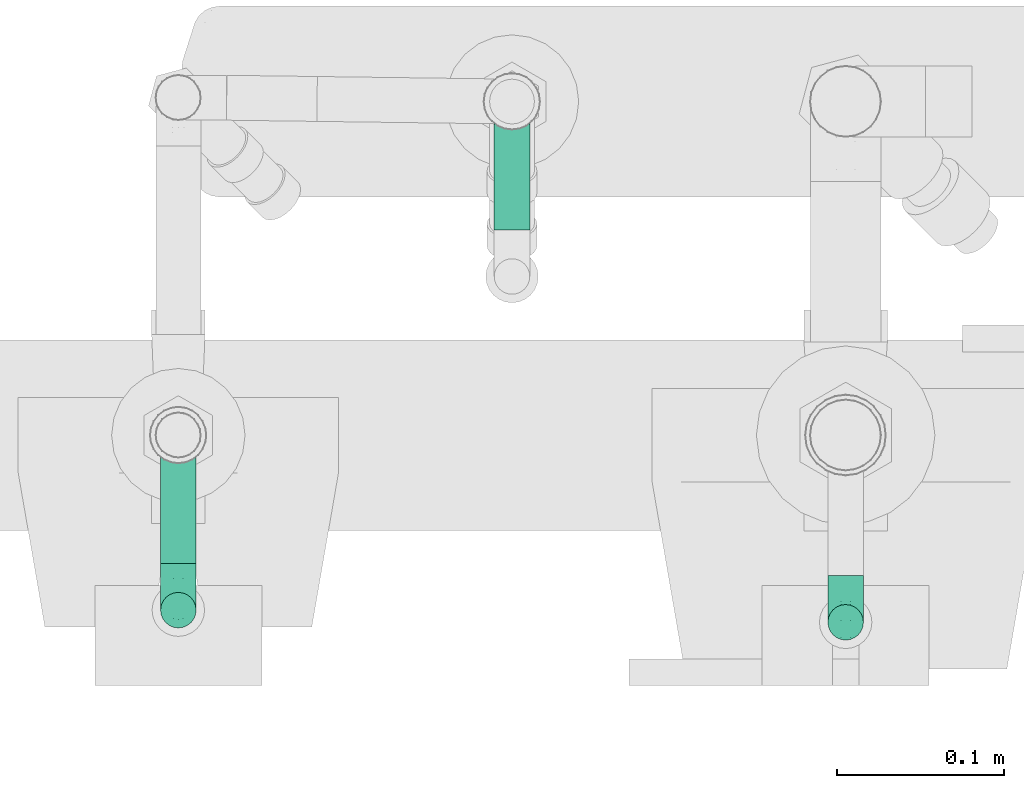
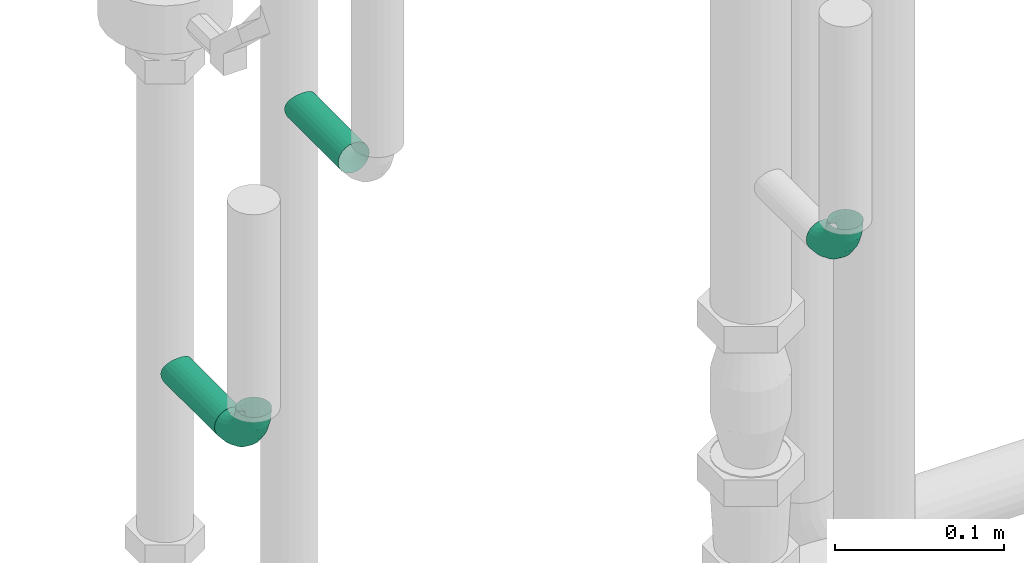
# One storey, part 190 of 374: 4 flow segments.
"""IFC2X3 building model written with IfcOpenShell, lengths in metres."""

import ifcopenshell
import ifcopenshell.guid

model = None  # the IFC model being written
_history = None  # IfcOwnerHistory: only IFC2X3 demands one
_inside = {}  # id of a spatial element -> (the spatial element, [elements in it])
_under = {}  # id of a project, library or spatial element -> (it, [spatial elements below it])
_declared = {}  # id of a project -> (the project, [libraries it declares])
_typed = {}  # id of a type object -> (the type object, [elements of that type])
_made_of = {}  # id of a material, layer set ... -> (it, [elements and type objects made of it])


def new_model(schema):
    """Start an empty IFC model of exactly this schema.

    Asked for "IFC4X3", IfcOpenShell would pick the latest addendum, in which some entities
    have other attributes; the version numbers below select the first issue.
    IFC2X3 requires an IfcOwnerHistory on every rooted entity: one is made here for all.
    """
    global model, _history
    if schema == "IFC4X3":
        model = ifcopenshell.file(schema_version=(4, 3, 0, 0))
    else:
        model = ifcopenshell.file(schema=schema)
    _inside.clear()
    _under.clear()
    _declared.clear()
    _typed.clear()
    _made_of.clear()
    _history = None
    if model.schema == "IFC2X3":
        org = make("IfcOrganization", Name="unknown")
        user = make(
            "IfcPersonAndOrganization",
            ThePerson=make("IfcPerson", FamilyName="unknown"),
            TheOrganization=org,
        )
        app = make(
            "IfcApplication",
            ApplicationDeveloper=org,
            Version="unknown",
            ApplicationFullName="unknown",
            ApplicationIdentifier="unknown",
        )
        _history = make(
            "IfcOwnerHistory",
            OwningUser=user,
            OwningApplication=app,
            ChangeAction="ADDED",
            CreationDate=0,
        )
    return model


def make(cls, **values):
    """One entity of the class cls with the attributes given. An attribute that is None is left unset."""
    return model.create_entity(
        cls, **{name: value for name, value in values.items() if value is not None}
    )


def rooted(cls, **values):
    """An entity with a GlobalId (a new one), such as an element, a storey or a relation."""
    return make(cls, GlobalId=ifcopenshell.guid.new(), OwnerHistory=_history, **values)


def si_unit(unit_type, name, prefix=None):
    """IfcSIUnit, for example si_unit("LENGTHUNIT", "METRE", prefix="MILLI")."""
    return make("IfcSIUnit", UnitType=unit_type, Prefix=prefix, Name=name)


def assignment(units):
    """IfcUnitAssignment: the units of a project."""
    return None if units is None else make("IfcUnitAssignment", Units=units)


def point(xyz):
    """IfcCartesianPoint."""
    return None if xyz is None else make("IfcCartesianPoint", Coordinates=xyz)


def direction(xyz):
    """IfcDirection."""
    return None if xyz is None else make("IfcDirection", DirectionRatios=xyz)


def frame(location, z_axis=None, x_axis=None):
    """IfcAxis2Placement3D, a coordinate frame: its origin and axes. An axis left out is left unset."""
    return make(
        "IfcAxis2Placement3D",
        Location=point(location),
        Axis=direction(z_axis),
        RefDirection=direction(x_axis),
    )


def origin():
    """The frame at (0, 0, 0) with its axes left unset."""
    return frame((0.0, 0.0, 0.0))


def place(relative_to, where):
    """IfcLocalPlacement: puts the frame where relative to a parent placement (None: the world)."""
    return make(
        "IfcLocalPlacement", PlacementRelTo=relative_to, RelativePlacement=where
    )


def context(
    kind, dimensions, precision=None, world=None, true_north=None, identifier=None
):
    """IfcGeometricRepresentationContext, for example the 3D "Model" context."""
    return make(
        "IfcGeometricRepresentationContext",
        ContextIdentifier=identifier,
        ContextType=kind,
        CoordinateSpaceDimension=dimensions,
        Precision=precision,
        WorldCoordinateSystem=world,
        TrueNorth=true_north,
    )


def subcontext(parent, identifier, kind, view, scale=None):
    """IfcGeometricRepresentationSubContext, for example "Body" below "Model"."""
    return make(
        "IfcGeometricRepresentationSubContext",
        ContextIdentifier=identifier,
        ContextType=kind,
        ParentContext=parent,
        TargetScale=scale,
        TargetView=view,
    )


def project(units=None, contexts=None):
    """IfcProject with its units and contexts."""
    return rooted(
        "IfcProject",
        Name="project",
        RepresentationContexts=contexts,
        UnitsInContext=assignment(units),
    )


def spatial(cls, under=None, at=None, **own):
    """A site, building, storey or space (cls), placed at a placement, below another one or the project."""
    s = rooted(cls, ObjectPlacement=at, **own)
    if under is not None:
        _under.setdefault(under.id(), (under, []))[1].append(s)
    return s


def faces_of(points, faces, orient=None, outer=None):
    """IfcFace entities. A face is a list of loops; a loop is a list of indices into points, from 0.

    orient and outer hold one flag for each loop. By default every Orientation is true, the
    first loop of a face is its IfcFaceOuterBound and the others are IfcFaceBound.
    """
    made = []
    for i, loops in enumerate(faces):
        bounds = []
        for j, loop in enumerate(loops):
            is_outer = j == 0 if outer is None else outer[i][j]
            bounds.append(
                make(
                    "IfcFaceOuterBound" if is_outer else "IfcFaceBound",
                    Bound=make("IfcPolyLoop", Polygon=[points[k] for k in loop]),
                    Orientation=True if orient is None else orient[i][j],
                )
            )
        made.append(make("IfcFace", Bounds=bounds))
    return made


def open_shell(faces, orient=None, outer=None):
    """The faces of one IfcOpenShell. surface_model builds it on its shared points."""
    return ("IfcOpenShell", faces, orient, outer)


def surface_model(cls, points, shells):
    """IfcFaceBasedSurfaceModel or IfcShellBasedSurfaceModel (cls): surfaces that need not close."""
    shared = [point(p) for p in points]
    made = [make(c, CfsFaces=faces_of(shared, fs, o, b)) for c, fs, o, b in shells]
    if cls == "IfcFaceBasedSurfaceModel":
        return make(cls, FbsmFaces=made)
    return make(cls, SbsmBoundary=made)


def shape(context_of_items, identifier, shape_type, items):
    """IfcShapeRepresentation: the items that make up one representation, for example the "Body"."""
    return make(
        "IfcShapeRepresentation",
        ContextOfItems=context_of_items,
        RepresentationIdentifier=identifier,
        RepresentationType=shape_type,
        Items=items,
    )


def source(mapping_origin, context_of_items, identifier, shape_type, items):
    """IfcRepresentationMap: a shape defined once, which mapped items show again and again."""
    return make(
        "IfcRepresentationMap",
        MappingOrigin=mapping_origin,
        MappedRepresentation=shape(context_of_items, identifier, shape_type, items),
    )


def transform(
    local_origin,
    x_axis=None,
    y_axis=None,
    z_axis=None,
    scale=None,
    scale2=None,
    scale3=None,
    uniform=True,
):
    """IfcCartesianTransformationOperator3D, or its non-uniform kind. x_axis, y_axis, z_axis: its Axis1, 2, 3."""
    if uniform:
        return make(
            "IfcCartesianTransformationOperator3D",
            Axis1=direction(x_axis),
            Axis2=direction(y_axis),
            LocalOrigin=point(local_origin),
            Scale=scale,
            Axis3=direction(z_axis),
        )
    return make(
        "IfcCartesianTransformationOperator3DnonUniform",
        Axis1=direction(x_axis),
        Axis2=direction(y_axis),
        LocalOrigin=point(local_origin),
        Scale=scale,
        Axis3=direction(z_axis),
        Scale2=scale2,
        Scale3=scale3,
    )


def mapped(mapping_source, mapping_target):
    """IfcMappedItem: shows the shape of a source again, moved by a transform."""
    return make(
        "IfcMappedItem", MappingSource=mapping_source, MappingTarget=mapping_target
    )


def made_of(thing, what):
    """Note that an element or type object is made of a material, layer set ...; save() writes the relation."""
    if what is not None:
        _made_of.setdefault(what.id(), (what, []))[1].append(thing)
    return thing


def element(
    cls,
    number,
    at=None,
    inside=None,
    cuts=None,
    type_object=None,
    material=None,
    context=None,
    identifier="Body",
    shape_type=None,
    held_by="IfcProductDefinitionShape",
    body=None,
    shapes=None,
    **own,
):
    """One element of the class cls, such as IfcWall. Its Tag is "e" and its number.

    at: its placement. inside: the storey or other place that contains it. cuts: it is an
    opening in that element (IfcRelVoidsElement). A single representation is given by context,
    identifier, shape_type and body (its items); several are given by shapes. held_by: the class
    of the entity that holds the representations. save() writes the other relations.
    """
    e = rooted(cls, Tag="e%d" % number, ObjectPlacement=at, **own)
    if body is not None:
        shapes = [shape(context, identifier, shape_type, body)]
    if shapes is not None:
        e.Representation = make(held_by, Representations=shapes)
    if inside is not None:
        _inside.setdefault(inside.id(), (inside, []))[1].append(e)
    if cuts is not None:
        rooted(
            "IfcRelVoidsElement", RelatingBuildingElement=cuts, RelatedOpeningElement=e
        )
    if type_object is not None:
        _typed.setdefault(type_object.id(), (type_object, []))[1].append(e)
    return made_of(e, material)


def aggregate(whole, parts):
    """IfcRelAggregates: a whole, such as a stair, and the parts it consists of."""
    return rooted("IfcRelAggregates", RelatingObject=whole, RelatedObjects=parts)


def save(model, path):
    """Write the relations noted so far, then the file.

    IfcRelAggregates (storeys below a building ...), IfcRelContainedInSpatialStructure (elements
    in a storey), IfcRelDefinesByType, IfcRelAssociatesMaterial and IfcRelDeclares: one each for
    every whole, place, type object, material and project.
    """
    for whole, parts in _under.values():
        aggregate(whole, parts)
    for where, things in _inside.values():
        rooted(
            "IfcRelContainedInSpatialStructure",
            RelatedElements=things,
            RelatingStructure=where,
        )
    for kind, things in _typed.values():
        rooted("IfcRelDefinesByType", RelatedObjects=things, RelatingType=kind)
    for what, things in _made_of.values():
        rooted("IfcRelAssociatesMaterial", RelatedObjects=things, RelatingMaterial=what)
    for by, libraries in _declared.values():
        rooted("IfcRelDeclares", RelatingContext=by, RelatedDefinitions=libraries)
    model.write(path)


model = new_model("IFC2X3")

# Units and contexts
model_context = context("Model", 3, precision=1e-05, world=origin(), true_north=direction((-0.4480736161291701, 0.8939966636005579)))
body_context = subcontext(model_context, "Body", "Model", "MODEL_VIEW")
ifc_project = project(units=[si_unit("LENGTHUNIT", "METRE"), si_unit("AREAUNIT", "SQUARE_METRE"), si_unit("VOLUMEUNIT", "CUBIC_METRE"), si_unit("PLANEANGLEUNIT", "RADIAN"), si_unit("THERMODYNAMICTEMPERATUREUNIT", "KELVIN"), si_unit("MASSUNIT", "GRAM", prefix="KILO"), si_unit("TIMEUNIT", "SECOND")], contexts=[model_context])

# Site, building, storey
site_placement = place(None, origin())
site = spatial("IfcSite", under=ifc_project, at=site_placement, Name="Site 1", CompositionType="ELEMENT")
building_placement = place(site_placement, origin())
building = spatial("IfcBuilding", under=site, at=building_placement, Name="Undefined", CompositionType="ELEMENT")
storey_placement = place(building_placement, origin())
storey = spatial("IfcBuildingStorey", under=building, at=storey_placement, Name="Rez de chauss\x8ee", CompositionType="ELEMENT", Elevation=0.0)

# Flow segments
shared_shape_1 = source(origin(), body_context, "Body", "SurfaceModel", [
    surface_model("IfcFaceBasedSurfaceModel", [(1.776356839e-15, 0.0027802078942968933, 0.0), (0.0, 0.0, 0.0), (0.06022698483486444, -7.105427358e-15, 1.776356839e-15), (0.060000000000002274, 0.0027802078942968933, 0.0), (0.0, -0.002685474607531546, -0.0007195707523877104), (0.06086354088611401, -0.0026854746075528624, -0.0007195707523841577), (1.776356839e-15, -0.00509320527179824, -0.002109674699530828), (0.0617764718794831, -0.0050932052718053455, -0.0021096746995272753), (1.776356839e-15, -0.007059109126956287, -0.004075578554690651), (0.06274838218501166, -0.0070591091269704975, -0.004075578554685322), (0.0, -0.00844921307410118, -0.00648330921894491), (0.063504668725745, -0.00844921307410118, -0.006483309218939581), (0.0, -0.009168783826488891, -0.009168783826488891), (0.0637924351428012, -0.009168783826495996, -0.009168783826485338), (0.0, -0.009168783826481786, -0.011948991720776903), (0.063504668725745, -0.009168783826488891, -0.011948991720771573), (1.776356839e-15, -0.00844921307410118, -0.014634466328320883), (0.06274838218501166, -0.008449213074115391, -0.01463446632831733), (1.776356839e-15, -0.007059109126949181, -0.017042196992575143), (0.0617764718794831, -0.007059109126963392, -0.01704219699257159), (0.0, -0.005093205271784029, -0.019008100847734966), (0.06086354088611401, -0.005093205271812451, -0.019008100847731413), (0.0, -0.0026854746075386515, -0.020398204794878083), (0.06022698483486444, -0.0026854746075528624, -0.02039820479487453), (1.776356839e-15, 7.105427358e-15, -0.021117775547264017), (0.060000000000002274, 7.105427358e-15, -0.021117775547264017), (1.776356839e-15, 0.002780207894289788, -0.02111777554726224), (0.06022698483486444, 0.002780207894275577, -0.021117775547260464), (1.776356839e-15, 0.005465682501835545, -0.020398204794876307), (0.06086354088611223, 0.005465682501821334, -0.020398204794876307), (1.776356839e-15, 0.007873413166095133, -0.01900810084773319), (0.0617764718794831, 0.007873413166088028, -0.01900810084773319), (0.0, 0.00983931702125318, -0.017042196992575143), (0.06274838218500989, 0.009839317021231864, -0.017042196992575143), (1.776356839e-15, 0.011229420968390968, -0.01463446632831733), (0.06350466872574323, 0.011229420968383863, -0.014634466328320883), (1.776356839e-15, 0.011948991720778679, -0.011948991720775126), (0.06379243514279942, 0.011948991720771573, -0.011948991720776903), (1.776356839e-15, 0.011948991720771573, -0.009168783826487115), (0.06350466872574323, 0.011948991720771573, -0.009168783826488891), (0.0, 0.011229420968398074, -0.006483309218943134), (0.06274838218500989, 0.011229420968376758, -0.006483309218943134), (1.776356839e-15, 0.009839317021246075, -0.0040755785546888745), (0.0617764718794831, 0.009839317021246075, -0.0040755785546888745), (1.776356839e-15, 0.007873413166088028, -0.0021096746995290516), (0.06086354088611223, 0.007873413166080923, -0.002109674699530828), (1.776356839e-15, 0.005465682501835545, -0.000719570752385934), (0.06022698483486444, 0.005465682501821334, -0.0007195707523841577)], [open_shell([[[0, 1, 2, 3]], [[1, 4, 5, 2]], [[4, 6, 7, 5]], [[6, 8, 9, 7]], [[8, 10, 11, 9]], [[10, 12, 13, 11]], [[12, 14, 15, 13]], [[14, 16, 17, 15]], [[16, 18, 19, 17]], [[18, 20, 21, 19]], [[20, 22, 23, 21]], [[22, 24, 25, 23]], [[24, 26, 27, 25]], [[26, 28, 29, 27]], [[28, 30, 31, 29]], [[30, 32, 33, 31]], [[32, 34, 35, 33]], [[34, 36, 37, 35]], [[36, 38, 39, 37]], [[38, 40, 41, 39]], [[40, 42, 43, 41]], [[42, 44, 45, 43]], [[44, 46, 47, 45]], [[46, 0, 3, 47]]])]),
])
flow_segment_1_placement = place(storey_placement, origin())
element("IfcFlowSegment", 1, at=flow_segment_1_placement, inside=storey, Name="Piquage sur circulaire 90°", ObjectType="Piquage sur circulaire 90°", context=body_context, shape_type="MappedRepresentation", body=[
    mapped(shared_shape_1, transform((52.060318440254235, 10.641187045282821, 1.475506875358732), x_axis=(0.0, 1.0, 0.0), y_axis=(-0.9914448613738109, 0.0, 0.1305261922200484), z_axis=(0.1305261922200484, 0.0, 0.9914448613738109))),
])
flow_segment_2_placement = place(storey_placement, origin())
element("IfcFlowSegment", 2, at=flow_segment_2_placement, inside=storey, Name="Piquage sur circulaire 90°", ObjectType="Piquage sur circulaire 90°", context=body_context, shape_type="MappedRepresentation", body=[
    mapped(shared_shape_1, transform((52.260318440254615, 10.841187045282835, 1.475506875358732), x_axis=(0.0, 1.0, 0.0), y_axis=(-0.9914448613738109, 0.0, 0.1305261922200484), z_axis=(0.1305261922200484, 0.0, 0.9914448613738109))),
])
shared_shape_2 = source(origin(), body_context, "Body", "SurfaceModel", [
    surface_model("IfcFaceBasedSurfaceModel", [(0.010089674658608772, 0.0, 1.33226763e-15), (0.010042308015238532, 0.002779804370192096, 1.33226763e-15), (4.73666433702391e-05, 0.0027798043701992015, 4.4408921e-16), (0.0, 0.0, 0.0), (-0.009607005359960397, 0.00311462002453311, -0.0025651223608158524), (-0.00974587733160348, 0.0003379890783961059, -0.0025894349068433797), (-0.01826287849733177, 0.003761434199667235, -0.007520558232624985), (-0.018483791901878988, 0.000990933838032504, -0.007591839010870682), (-0.025330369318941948, 0.004676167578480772, -0.014528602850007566), (-0.025618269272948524, 0.001914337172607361, -0.014666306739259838), (-0.030327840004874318, 0.005796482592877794, -0.023111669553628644), (-0.030663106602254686, 0.003045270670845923, -0.023330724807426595), (-0.03291472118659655, 0.00704603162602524, -0.03268483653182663), (-0.03327450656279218, 0.004306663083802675, -0.0329946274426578), (0.009903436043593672, 0.005463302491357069, -0.000713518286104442), (0.000186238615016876, 0.005463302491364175, -0.0007135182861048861), (-0.009199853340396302, 0.005788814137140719, -0.0032073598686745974), (-0.017615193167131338, 0.006417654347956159, -0.008025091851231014), (-0.02448628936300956, 0.007306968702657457, -0.014838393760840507), (-0.029344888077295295, 0.008396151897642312, -0.023182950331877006), (-0.031859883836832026, 0.009610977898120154, -0.0324900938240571), (0.009682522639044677, 0.007867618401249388, -0.002091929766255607), (0.0004071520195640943, 0.007867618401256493, -0.002091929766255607), (-0.008552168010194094, 0.008178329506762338, -0.004472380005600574), (-0.0165848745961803, 0.008778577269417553, -0.00907105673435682), (-0.023143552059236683, 0.00962745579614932, -0.015574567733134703), (-0.027781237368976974, 0.010667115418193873, -0.023539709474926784), (-0.030181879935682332, 0.011826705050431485, -0.03242367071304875), (0.009394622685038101, 0.009828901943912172, -0.0040412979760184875), (0.000695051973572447, 0.009828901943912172, -0.0040412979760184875), (-0.007708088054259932, 0.010120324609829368, -0.006273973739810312), (-0.015242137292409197, 0.010683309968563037, -0.010587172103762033), (-0.02139366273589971, 0.011479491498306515, -0.01668695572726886), (-0.0257434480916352, 0.012454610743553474, -0.02415763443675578), (-0.027995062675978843, 0.013542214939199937, -0.03249009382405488), (0.00905935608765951, 0.011213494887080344, -0.006428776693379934), (0.0010303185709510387, 0.01121349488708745, -0.006428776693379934), (-0.006725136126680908, 0.011482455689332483, -0.00848936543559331), (-0.0136784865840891, 0.01200204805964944, -0.01247011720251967), (-0.01935587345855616, 0.012736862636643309, -0.018099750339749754), (-0.02337039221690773, 0.013636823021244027, -0.024994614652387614), (-0.02544846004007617, 0.014640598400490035, -0.03268483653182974), (0.008699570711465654, 0.01192703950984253, -0.009091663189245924), (0.001390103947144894, 0.01192703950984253, -0.009091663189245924), (-0.005670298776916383, 0.01217189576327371, -0.010967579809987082), (-0.01200048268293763, 0.012644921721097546, -0.014591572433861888), (-0.017169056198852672, 0.013313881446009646, -0.01971667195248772), (-0.02082378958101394, 0.014133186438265, -0.025993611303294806), (-0.02271561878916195, 0.01504700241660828, -0.032994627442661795), (0.008339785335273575, 0.011920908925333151, -0.011848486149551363), (0.0017498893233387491, 0.011920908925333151, -0.011848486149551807), (-0.0046154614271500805, 0.012141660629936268, -0.013539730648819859), (-0.01032247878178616, 0.012568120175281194, -0.016806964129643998), (-0.014982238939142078, 0.013171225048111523, -0.02142753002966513), (-0.018277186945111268, 0.01390987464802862, -0.027086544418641), (-0.01998277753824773, 0.01473373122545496, -0.033398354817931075), (0.008004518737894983, 0.011195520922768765, -0.01451137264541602), (0.0020851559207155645, 0.011195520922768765, -0.014511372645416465), (-0.003632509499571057, 0.011393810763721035, -0.016030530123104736), (-0.008758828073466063, 0.011776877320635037, -0.018965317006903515), (-0.01294444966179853, 0.012318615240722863, -0.023115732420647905), (-0.01590413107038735, 0.012982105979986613, -0.028198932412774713), (-0.017436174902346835, 0.013722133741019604, -0.03386850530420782), (0.007716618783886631, 0.009800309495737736, -0.016898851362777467), (0.002373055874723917, 0.009800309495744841, -0.016898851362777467), (-0.0027884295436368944, 0.009979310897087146, -0.018270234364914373), (-0.007416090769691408, 0.010325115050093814, -0.020919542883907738), (-0.01119456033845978, 0.010814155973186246, -0.024666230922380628), (-0.013866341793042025, 0.011413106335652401, -0.02925496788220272), (-0.015249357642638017, 0.012081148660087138, -0.03437303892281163), (0.007495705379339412, 0.007830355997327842, -0.018848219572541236), (0.002593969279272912, 0.007830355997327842, -0.018848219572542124), (-0.00214074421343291, 0.00799455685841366, -0.02010621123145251), (-0.006385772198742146, 0.008311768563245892, -0.022536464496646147), (-0.009851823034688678, 0.008760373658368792, -0.025973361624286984), (-0.012302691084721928, 0.00930980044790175, -0.03018268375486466), (-0.013571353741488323, 0.009922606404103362, -0.034877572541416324), (0.007356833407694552, 0.0054199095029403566, -0.020226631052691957), (0.002732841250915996, 0.005419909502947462, -0.0202266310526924), (-0.0017335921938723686, 0.005574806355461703, -0.021413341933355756), (-0.005738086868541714, 0.005874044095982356, -0.023705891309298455), (-0.009007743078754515, 0.006297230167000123, -0.026948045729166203), (-0.011319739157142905, 0.006815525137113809, -0.030918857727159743), (-0.012516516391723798, 0.007393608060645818, -0.03534772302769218), (0.007309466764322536, 0.0027332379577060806, -0.020940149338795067), (0.0027802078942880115, 0.002733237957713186, -0.020940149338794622), (-0.001594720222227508, 0.0028849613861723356, -0.022102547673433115), (-0.0055171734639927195, 0.0031780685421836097, -0.024348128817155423), (-0.008719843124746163, 0.003592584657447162, -0.027523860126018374), (-0.010984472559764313, 0.004100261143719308, -0.03141332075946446), (-0.012156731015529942, 0.004666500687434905, -0.035751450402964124), (0.007356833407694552, -4.656641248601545e-05, -0.020940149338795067), (0.002732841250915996, -4.6566412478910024e-05, -0.02094014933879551), (-0.0017335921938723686, 0.00010833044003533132, -0.022126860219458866), (-0.005738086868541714, 0.00040756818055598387, -0.024419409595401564), (-0.009007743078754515, 0.0008307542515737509, -0.027661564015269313), (-0.011319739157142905, 0.0013490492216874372, -0.03163237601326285), (-0.012516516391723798, 0.0019271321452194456, -0.03606124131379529), (0.007495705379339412, -0.002730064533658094, -0.020226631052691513), (0.002593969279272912, -0.002730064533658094, -0.0202266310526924), (-0.00214074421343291, -0.002565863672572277, -0.021484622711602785), (-0.006385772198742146, -0.002248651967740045, -0.023914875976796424), (-0.009851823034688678, -0.0018000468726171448, -0.02735177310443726), (-0.012302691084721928, -0.0012506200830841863, -0.031561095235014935), (-0.013571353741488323, -0.0006378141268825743, -0.0362559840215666), (0.007716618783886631, -0.005134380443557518, -0.01884821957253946), (0.002373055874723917, -0.0051343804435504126, -0.01884821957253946), (-0.0027884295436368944, -0.004955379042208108, -0.020219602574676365), (-0.007416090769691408, -0.00460957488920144, -0.02286891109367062), (-0.01119456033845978, -0.004120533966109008, -0.026615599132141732), (-0.013866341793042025, -0.0035215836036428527, -0.031204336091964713), (-0.015249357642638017, -0.002853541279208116, -0.03632240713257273), (0.008004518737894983, -0.007095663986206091, -0.01689885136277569), (0.0020851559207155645, -0.007095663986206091, -0.016898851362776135), (-0.003632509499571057, -0.006897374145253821, -0.018418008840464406), (-0.008758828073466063, -0.006514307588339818, -0.021352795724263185), (-0.01294444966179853, -0.005972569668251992, -0.025503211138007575), (-0.01590413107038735, -0.005309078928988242, -0.030586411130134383), (-0.017436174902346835, -0.0045690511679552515, -0.03625598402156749), (0.008339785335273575, -0.008480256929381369, -0.014511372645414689), (0.0017498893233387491, -0.008480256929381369, -0.014511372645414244), (-0.0046154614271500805, -0.008259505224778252, -0.016202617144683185), (-0.01032247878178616, -0.007833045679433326, -0.019469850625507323), (-0.014982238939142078, -0.007229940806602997, -0.024090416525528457), (-0.018277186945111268, -0.006491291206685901, -0.029749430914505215), (-0.01998277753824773, -0.00566743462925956, -0.0360612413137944), (0.008699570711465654, -0.009193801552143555, -0.011848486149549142), (0.001390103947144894, -0.009193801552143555, -0.011848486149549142), (-0.005670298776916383, -0.008948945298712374, -0.013724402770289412), (-0.01200048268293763, -0.008475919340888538, -0.017348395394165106), (-0.017169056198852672, -0.007806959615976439, -0.022473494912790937), (-0.02082378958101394, -0.006987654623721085, -0.028750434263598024), (-0.02271561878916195, -0.006073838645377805, -0.035751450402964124), (0.00905935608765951, -0.009187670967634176, -0.00909166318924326), (0.0010303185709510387, -0.00918767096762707, -0.00909166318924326), (-0.006725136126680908, -0.008918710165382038, -0.011152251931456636), (-0.0136784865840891, -0.00839911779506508, -0.015133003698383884), (-0.01935587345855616, -0.007664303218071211, -0.02076263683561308), (-0.02337039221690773, -0.006764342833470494, -0.02765750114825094), (-0.02544846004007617, -0.005760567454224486, -0.03534772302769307), (0.009394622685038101, -0.008462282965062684, -0.006428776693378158), (0.000695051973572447, -0.008462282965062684, -0.006428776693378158), (-0.007708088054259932, -0.008170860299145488, -0.008661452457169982), (-0.015242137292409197, -0.0076078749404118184, -0.012974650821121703), (-0.02139366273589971, -0.00681169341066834, -0.01907443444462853), (-0.0257434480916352, -0.005836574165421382, -0.02654511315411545), (-0.027995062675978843, -0.004748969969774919, -0.03487757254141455), (0.009682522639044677, -0.007067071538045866, -0.004041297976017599), (0.0004071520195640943, -0.0070670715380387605, -0.004041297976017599), (-0.008552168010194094, -0.006756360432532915, -0.006421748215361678), (-0.0165848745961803, -0.0061561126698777, -0.011020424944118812), (-0.023143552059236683, -0.0053072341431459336, -0.017523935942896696), (-0.027781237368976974, -0.0042675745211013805, -0.02548907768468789), (-0.030181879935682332, -0.0031079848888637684, -0.03437303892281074), (0.009903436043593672, -0.005097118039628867, -0.0020919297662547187), (0.000186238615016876, -0.005097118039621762, -0.002091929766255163), (-0.009199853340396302, -0.004771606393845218, -0.004585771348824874), (-0.017615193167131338, -0.004142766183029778, -0.009403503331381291), (-0.02448628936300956, -0.0032534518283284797, -0.016216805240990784), (-0.029344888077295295, -0.0021642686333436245, -0.024561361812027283), (-0.031859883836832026, -0.0009494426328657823, -0.033868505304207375), (0.010042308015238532, -0.002686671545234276, -0.0007135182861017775), (4.73666433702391e-05, -0.0026866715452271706, -0.0007135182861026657), (-0.009607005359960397, -0.002351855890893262, -0.003278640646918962), (-0.01826287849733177, -0.0017050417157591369, -0.008234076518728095), (-0.025330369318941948, -0.0007903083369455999, -0.015242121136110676), (-0.030327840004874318, 0.0003300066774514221, -0.023825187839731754), (-0.03291472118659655, 0.0015795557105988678, -0.03339835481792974)], [open_shell([[[0, 1, 2, 3]], [[3, 2, 4, 5]], [[5, 4, 6, 7]], [[7, 6, 8, 9]], [[9, 8, 10, 11]], [[11, 10, 12, 13]], [[1, 14, 15, 2]], [[2, 15, 16, 4]], [[4, 16, 17, 6]], [[6, 17, 18, 8]], [[8, 18, 19, 10]], [[10, 19, 20, 12]], [[14, 21, 22, 15]], [[15, 22, 23, 16]], [[16, 23, 24, 17]], [[17, 24, 25, 18]], [[18, 25, 26, 19]], [[19, 26, 27, 20]], [[21, 28, 29, 22]], [[22, 29, 30, 23]], [[23, 30, 31, 24]], [[24, 31, 32, 25]], [[25, 32, 33, 26]], [[26, 33, 34, 27]], [[28, 35, 36, 29]], [[29, 36, 37, 30]], [[30, 37, 38, 31]], [[31, 38, 39, 32]], [[32, 39, 40, 33]], [[33, 40, 41, 34]], [[35, 42, 43, 36]], [[36, 43, 44, 37]], [[37, 44, 45, 38]], [[38, 45, 46, 39]], [[39, 46, 47, 40]], [[40, 47, 48, 41]], [[42, 49, 50, 43]], [[43, 50, 51, 44]], [[44, 51, 52, 45]], [[45, 52, 53, 46]], [[46, 53, 54, 47]], [[47, 54, 55, 48]], [[49, 56, 57, 50]], [[50, 57, 58, 51]], [[51, 58, 59, 52]], [[52, 59, 60, 53]], [[53, 60, 61, 54]], [[54, 61, 62, 55]], [[56, 63, 64, 57]], [[57, 64, 65, 58]], [[58, 65, 66, 59]], [[59, 66, 67, 60]], [[60, 67, 68, 61]], [[61, 68, 69, 62]], [[63, 70, 71, 64]], [[64, 71, 72, 65]], [[65, 72, 73, 66]], [[66, 73, 74, 67]], [[67, 74, 75, 68]], [[68, 75, 76, 69]], [[70, 77, 78, 71]], [[71, 78, 79, 72]], [[72, 79, 80, 73]], [[73, 80, 81, 74]], [[74, 81, 82, 75]], [[75, 82, 83, 76]], [[77, 84, 85, 78]], [[78, 85, 86, 79]], [[79, 86, 87, 80]], [[80, 87, 88, 81]], [[81, 88, 89, 82]], [[82, 89, 90, 83]], [[84, 91, 92, 85]], [[85, 92, 93, 86]], [[86, 93, 94, 87]], [[87, 94, 95, 88]], [[88, 95, 96, 89]], [[89, 96, 97, 90]], [[91, 98, 99, 92]], [[92, 99, 100, 93]], [[93, 100, 101, 94]], [[94, 101, 102, 95]], [[95, 102, 103, 96]], [[96, 103, 104, 97]], [[98, 105, 106, 99]], [[99, 106, 107, 100]], [[100, 107, 108, 101]], [[101, 108, 109, 102]], [[102, 109, 110, 103]], [[103, 110, 111, 104]], [[105, 112, 113, 106]], [[106, 113, 114, 107]], [[107, 114, 115, 108]], [[108, 115, 116, 109]], [[109, 116, 117, 110]], [[110, 117, 118, 111]], [[112, 119, 120, 113]], [[113, 120, 121, 114]], [[114, 121, 122, 115]], [[115, 122, 123, 116]], [[116, 123, 124, 117]], [[117, 124, 125, 118]], [[119, 126, 127, 120]], [[120, 127, 128, 121]], [[121, 128, 129, 122]], [[122, 129, 130, 123]], [[123, 130, 131, 124]], [[124, 131, 132, 125]], [[126, 133, 134, 127]], [[127, 134, 135, 128]], [[128, 135, 136, 129]], [[129, 136, 137, 130]], [[130, 137, 138, 131]], [[131, 138, 139, 132]], [[133, 140, 141, 134]], [[134, 141, 142, 135]], [[135, 142, 143, 136]], [[136, 143, 144, 137]], [[137, 144, 145, 138]], [[138, 145, 146, 139]], [[140, 147, 148, 141]], [[141, 148, 149, 142]], [[142, 149, 150, 143]], [[143, 150, 151, 144]], [[144, 151, 152, 145]], [[145, 152, 153, 146]], [[147, 154, 155, 148]], [[148, 155, 156, 149]], [[149, 156, 157, 150]], [[150, 157, 158, 151]], [[151, 158, 159, 152]], [[152, 159, 160, 153]], [[154, 161, 162, 155]], [[155, 162, 163, 156]], [[156, 163, 164, 157]], [[157, 164, 165, 158]], [[158, 165, 166, 159]], [[159, 166, 167, 160]], [[161, 0, 3, 162]], [[162, 3, 5, 163]], [[163, 5, 7, 164]], [[164, 7, 9, 165]], [[165, 9, 11, 166]], [[166, 11, 13, 167]]])]),
])
flow_segment_3_placement = place(storey_placement, origin())
element("IfcFlowSegment", 3, at=flow_segment_3_placement, inside=storey, Name="Tube coudé", ObjectType="Tube coudé", context=body_context, shape_type="MappedRepresentation", body=[
    mapped(shared_shape_2, transform((52.05756201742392, 10.63118368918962, 1.4558867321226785), x_axis=(0.0, 0.9914448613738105, -0.13052619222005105), y_axis=(0.9915887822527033, 0.016893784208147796, 0.12832103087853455), z_axis=(0.1294283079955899, -0.12942830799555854, -0.9831056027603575))),
])
flow_segment_4_placement = place(storey_placement, origin())
element("IfcFlowSegment", 4, at=flow_segment_4_placement, inside=storey, Name="Tube coudé", ObjectType="Tube coudé", context=body_context, shape_type="MappedRepresentation", body=[
    mapped(shared_shape_2, transform((52.45756201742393, 10.623883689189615, 1.4558867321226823), x_axis=(0.0, 0.9914448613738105, -0.13052619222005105), y_axis=(0.9915887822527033, 0.016893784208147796, 0.12832103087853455), z_axis=(0.1294283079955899, -0.12942830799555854, -0.9831056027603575))),
])

save(model, "model.ifc")
